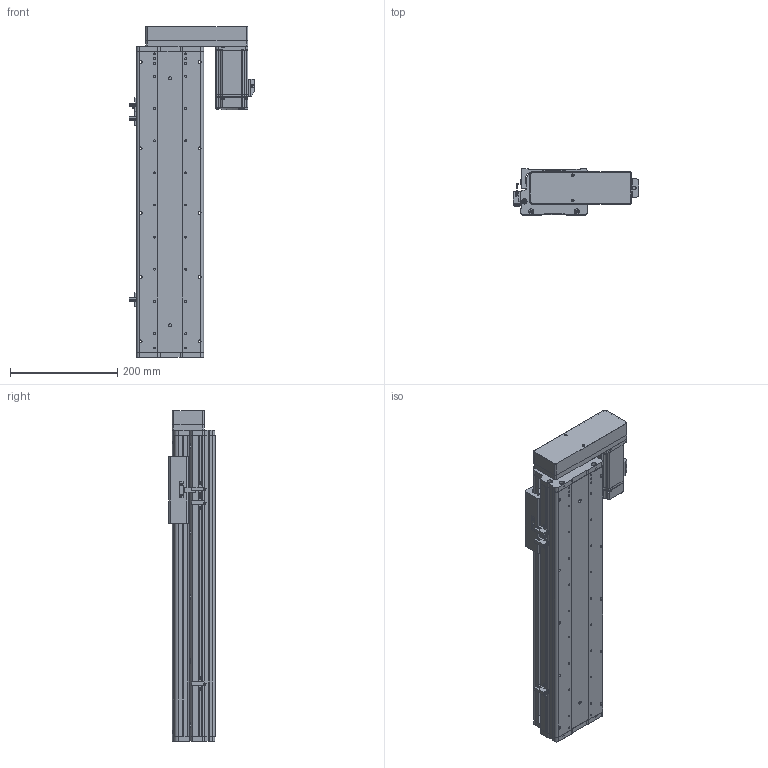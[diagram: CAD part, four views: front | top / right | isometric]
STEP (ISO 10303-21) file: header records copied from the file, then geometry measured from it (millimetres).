
FILE_DESCRIPTION (( 'STEP AP214' ), '1' );
FILE_NAME ('KSD125S-S350-MR-CM.STEP', '2017-10-21T08:53:54', ( '微软用户' ), ( '微软中国' ), 'SwSTEP 2.0', 'SolidWorks 2014', '' );
FILE_SCHEMA (( 'AUTOMOTIVE_DESIGN' ));
Length unit declared in the file: millimetre
Products named in the file (16): 125悵誘欶酘衵殏; KSD125S-350俴最佪裝滅鳥裔; KSD125S-350俴最佪裝菁啣; MHMD042G1CA_2_03; 拸萇儂釱滅袉菜; 拸萇儂釱滅袉菜-1; 覜茼え68遵圉猾敕; U倰嫖萇假蚾璃; U倰嫖萇EEㄜSX672; ヶ傷啣-125遵耀郪; KSD125-賑雄釱1; 125-帣傷啣1; KSD125S-S350-MR-CM; HTPA30S3M150_A_H6_a佪裝蚚; HTPA30S3M150_A_H6_a萇儂蚚; 125宽马达安装板连板左右折丝杆
Assembly tree (19 placements, depth 2):
  KSD125S-S350-MR-CM
    125-帣傷啣1
    KSD125-賑雄釱1
    ヶ傷啣-125遵耀郪
    U倰嫖萇EEㄜSX672  x3
    U倰嫖萇假蚾璃  x3
    覜茼え68遵圉猾敕
    拸萇儂釱滅袉菜-1
    拸萇儂釱滅袉菜
    MHMD042G1CA_2_03
    KSD125S-350俴最佪裝菁啣
    KSD125S-350俴最佪裝滅鳥裔
    125悵誘欶酘衵殏
    125宽马达安装板连板左右折丝杆
    HTPA30S3M150_A_H6_a萇儂蚚
    HTPA30S3M150_A_H6_a佪裝蚚
Bounding box: 234.2 x 86 x 617.5 mm (x, y, z)
Volume: 2242488.3 mm3; surface area: 789786.3 mm2
Topology: 18 solids, 21 shells, 2165 faces, 6273 edges, 4137 vertices
Faces by surface type: cylinder 1346, plane 678, cone 119, bspline 22
Entity records: 76103 total; most frequent: CARTESIAN_POINT 15499, DIRECTION 11887, ORIENTED_EDGE 11054, EDGE_CURVE 5605, AXIS2_PLACEMENT_3D 4587, VERTEX_POINT 3729, VECTOR 2713, LINE 2713
